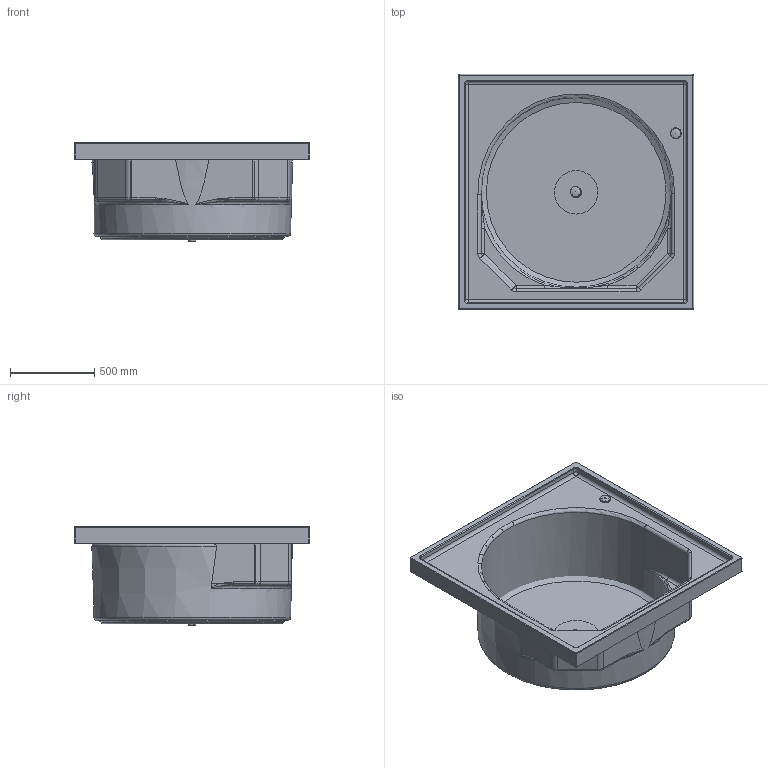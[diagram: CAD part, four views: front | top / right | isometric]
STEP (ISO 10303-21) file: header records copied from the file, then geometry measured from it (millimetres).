
FILE_DESCRIPTION((''),'2;1');
FILE_NAME('C:\Dokumente und Einstellungen\Andreas\Desktop\ARprivat\ÄnderungenNeuheiten 4\Änderung Blue Moon\3D_ÄNDERUNGEN_BLUE MOON\stp\700143.stp','2009-02-19T16:04:37',('Andreas'),(''),'Autodesk Inventor 2009','Autodesk Inventor 2009','');
FILE_SCHEMA(('AUTOMOTIVE_DESIGN { 1 0 10303 214 1 1 1 1 }'));
Length unit declared in the file: millimetre
Products named in the file (4): 700143; Kelch; Stopfen
Assembly tree (5 placements, depth 2):
  700143
    700143
    Kelch  x2
    Stopfen  x2
Bounding box: 1400 x 1400 x 589.4 mm (x, y, z)
Volume: 76583223.8 mm3; surface area: 14866814.9 mm2
Topology: 6 solids, 6 shells, 226 faces, 539 edges, 323 vertices
Faces by surface type: cylinder 84, plane 82, torus 25, bspline 23, cone 8, sphere 4
Full cylindrical faces by diameter (mm): 42 x2, 44 x2, 52 x4, 60 x2, 258.158 x1, 1070 x1, 1130 x1, 1150 x1
Entity records: 8359 total; most frequent: CARTESIAN_POINT 3975, DIRECTION 921, ORIENTED_EDGE 846, EDGE_CURVE 423, AXIS2_PLACEMENT_3D 361, VERTEX_POINT 266, EDGE_LOOP 233, VECTOR 199
